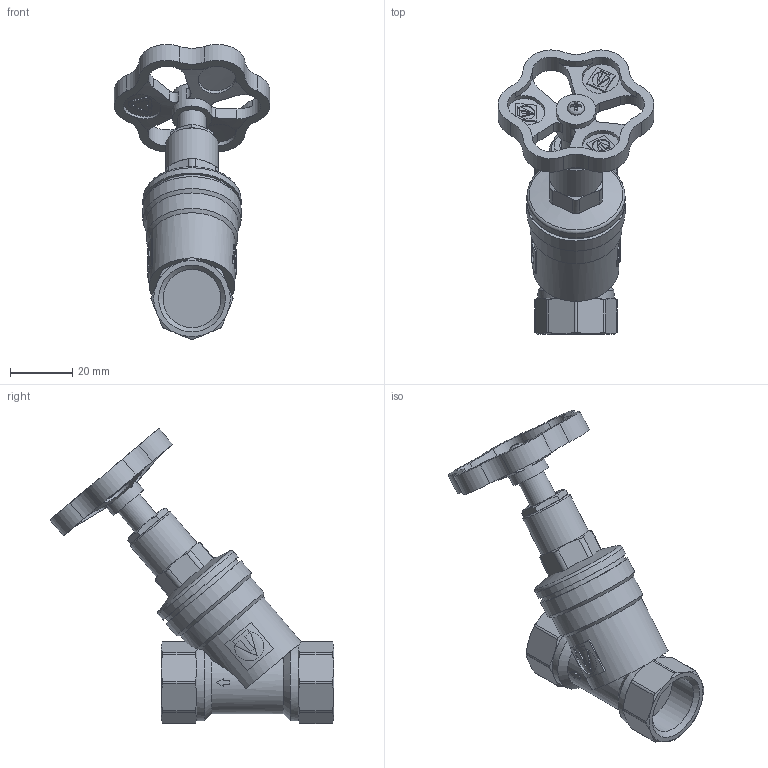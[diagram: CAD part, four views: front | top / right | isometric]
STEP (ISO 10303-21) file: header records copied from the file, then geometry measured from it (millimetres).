
FILE_DESCRIPTION(('STEP AP203'), '1');
FILE_NAME('VT.052.N.04', '', ('UNSPECIFIED'), ('UNSPECIFIED'), 'C3D Converter', 'C3D Toolkit', '');
FILE_SCHEMA(('CONFIG_CONTROL_DESIGN'));
Length unit declared in the file: millimetre
Products named in the file (1): ВР.491212.001.000 СБ
Bounding box: 50 x 91.19 x 94.82 mm (x, y, z)
Volume: 50621 mm3; surface area: 16714 mm2
Topology: 1 solids, 3 shells, 552 faces, 1469 edges, 958 vertices
Faces by surface type: plane 237, extrusion 119, cylinder 114, cone 79, torus 2, bspline 1
Full cylindrical faces by diameter (mm): 9 x1, 9.4 x1, 12 x6, 12.8 x1, 17 x1, 18.632 x2, 29.5 x2, 30 x1, 31.5 x2
Entity records: 29336 total; most frequent: CARTESIAN_POINT 16916, ORIENTED_EDGE 2884, DIRECTION 1951, EDGE_CURVE 1442, VERTEX_POINT 958, B_SPLINE_CURVE_WITH_KNOTS 760, AXIS2_PLACEMENT_3D 658, VECTOR 635
